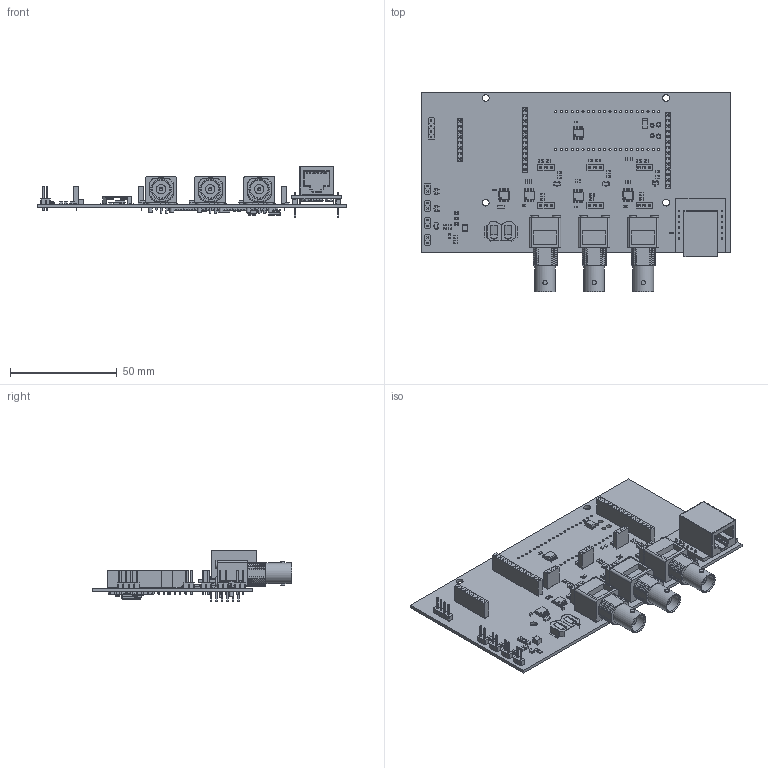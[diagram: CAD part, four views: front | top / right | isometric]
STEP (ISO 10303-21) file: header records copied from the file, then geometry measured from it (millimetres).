
FILE_DESCRIPTION(('KiCad electronic assembly'),'2;1');
FILE_NAME('tank1e.step','2026-07-31T10:06:13',('Pcbnew'),('Kicad'), 'Open CASCADE STEP processor 7.6','KiCad to STEP converter','Unknown' );
FILE_SCHEMA(('AUTOMOTIVE_DESIGN { 1 0 10303 214 1 1 1 1 }'));
Length unit declared in the file: millimetre
Products named in the file (44): tank1e 1; PinHeader_1x02_P2.54mm_Vertical; PinHeader_1x02_P254mm_Vertical; C_0805_2012Metric; SOT-23; R_0805_2012Metric; SOIC-8_3.9x4.9mm_P1.27mm; BNC_Amphenol_B6252HB-NPP3G-50_Horizontal; PinSocket_1x12_P2.54mm_Vertical; L_1210_3225Metric; PinSocket_1x03_P2.54mm_Vertical; PinSocket_1x08_P2.54mm_Vertical; C_0603_1608Metric; D_SMA; R_0603_1608Metric; Crystal_SMD_MicroCrystal_CC7V-T1A-2Pin_3.2x1.5mm; MicroCrystal_CC7V_T1A; BatteryHolder_LINX_BAT-HLD-012-SMT; w5500-lite; Document; COMPOUND; PinSocket_1x14_P2.54mm_Vertical; PinHeader_1x04_P2.54mm_Vertical; PinHeader_1x04_P254mm_Vertical; RaspberryPi_Pico; RaspberryPi_Pico_KiCad; RaspberryPi_Pico_Module_KiCad; tank1_PCB
Assembly tree (98 placements, depth 4):
  tank1e 1
    PinHeader_1x02_P2.54mm_Vertical  x4
      PinHeader_1x02_P254mm_Vertical
    C_0805_2012Metric  x18
      C_0805_2012Metric
    SOT-23  x6
      SOT-23
    R_0805_2012Metric  x8
      R_0805_2012Metric
    SOIC-8_3.9x4.9mm_P1.27mm  x5
      SOIC-8_3.9x4.9mm_P1.27mm
    BNC_Amphenol_B6252HB-NPP3G-50_Horizontal  x3
      BNC_Amphenol_B6252HB-NPP3G-50_Horizontal
    PinSocket_1x12_P2.54mm_Vertical
      PinSocket_1x12_P2.54mm_Vertical
    L_1210_3225Metric
      L_1210_3225Metric
    PinSocket_1x03_P2.54mm_Vertical  x6
      PinSocket_1x03_P2.54mm_Vertical
    PinSocket_1x08_P2.54mm_Vertical
      PinSocket_1x08_P2.54mm_Vertical
    C_0603_1608Metric  x6
      C_0603_1608Metric
    D_SMA
      D_SMA
    R_0603_1608Metric  x8
      R_0603_1608Metric
    Crystal_SMD_MicroCrystal_CC7V-T1A-2Pin_3.2x1.5mm
      MicroCrystal_CC7V_T1A
    BatteryHolder_LINX_BAT-HLD-012-SMT
      BatteryHolder_LINX_BAT-HLD-012-SMT
    w5500-lite
      Document
        COMPOUND
        COMPOUND
        COMPOUND
    PinSocket_1x14_P2.54mm_Vertical
      PinSocket_1x14_P2.54mm_Vertical
    PinHeader_1x04_P2.54mm_Vertical
      PinHeader_1x04_P254mm_Vertical
    RaspberryPi_Pico
      RaspberryPi_Pico_KiCad
        RaspberryPi_Pico_Module_KiCad
    tank1_PCB
Bounding box: 145 x 93.48 x 24.29 mm (x, y, z)
Volume: 34382.2 mm3; surface area: 48035.4 mm2
Topology: 158 solids, 294 shells, 7357 faces, 19427 edges, 12827 vertices
Faces by surface type: plane 5069, bspline 1148, cylinder 1114, cone 18, torus 8
Full cylindrical faces by diameter (mm): 0.67 x12, 0.89 x6, 1 x159, 1.3 x3, 1.6 x3, 1.8 x6, 1.85 x2, 2 x12, 2.01 x6, 2.1 x4, 2.2 x2, 2.5 x6, 3.2 x13, 3.5 x3, 3.8 x3, 4.4 x3, 8.25 x3, 9.65 x3
Entity records: 174126 total; most frequent: CARTESIAN_POINT 52247, ORIENTED_EDGE 22693, DIRECTION 14976, EDGE_CURVE 11667, VERTEX_POINT 7821, LINE 5632, VECTOR 5632, FACE_BOUND 4936
